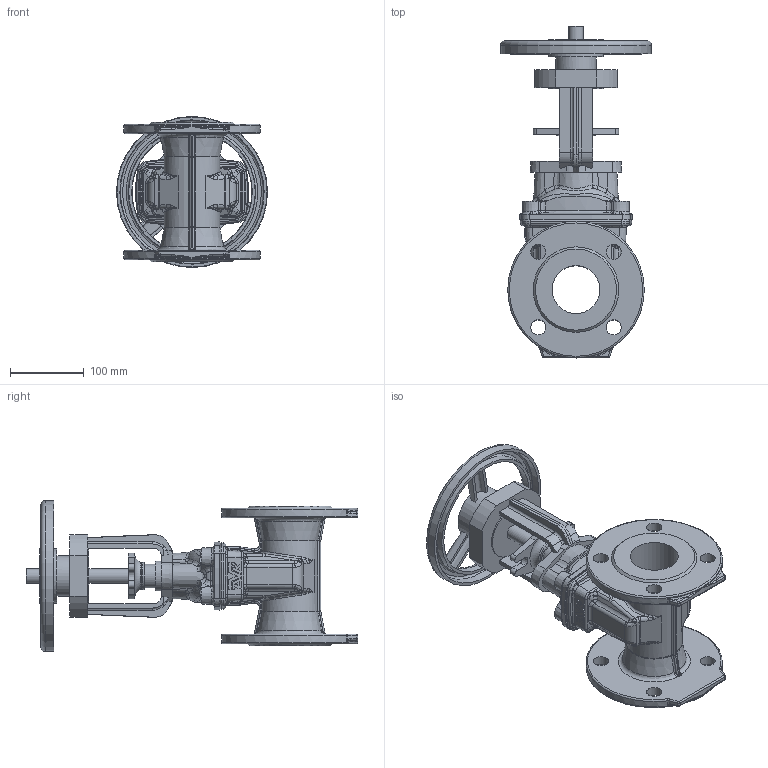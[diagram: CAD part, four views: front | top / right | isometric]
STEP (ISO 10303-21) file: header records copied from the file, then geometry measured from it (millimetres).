
FILE_DESCRIPTION (( 'STEP AP203' ), '1' );
FILE_NAME ('O_21_34_DN065_41XXXXX close_AA0.step', '2020-02-12T08:58:32', ( 'Windows User' ), ( 'AVK' ), 'SwSTEP 2.0', 'SolidWorks 2012', '' );
FILE_SCHEMA (( 'CONFIG_CONTROL_DESIGN' ));
Length unit declared in the file: millimetre
Products named in the file (1): O_21_34_DN065_41XXXXX close_AA0
Bounding box: 204.98 x 450.4 x 204.98 mm (x, y, z)
Volume: 2844404.2 mm3; surface area: 409774.8 mm2
Topology: 1 solids, 1 shells, 835 faces, 2051 edges, 1208 vertices
Faces by surface type: bspline 308, cylinder 194, plane 189, torus 79, cone 65
Full cylindrical faces by diameter (mm): 18 x4, 20 x2, 20.5 x8, 31.9 x1, 37 x1, 40 x1, 55 x1, 65 x1, 74 x1, 185 x2
Entity records: 34081 total; most frequent: CARTESIAN_POINT 17080, ORIENTED_EDGE 3944, DIRECTION 2992, EDGE_CURVE 1972, AXIS2_PLACEMENT_3D 1200, VERTEX_POINT 1190, EDGE_LOOP 914, FACE_OUTER_BOUND 865
